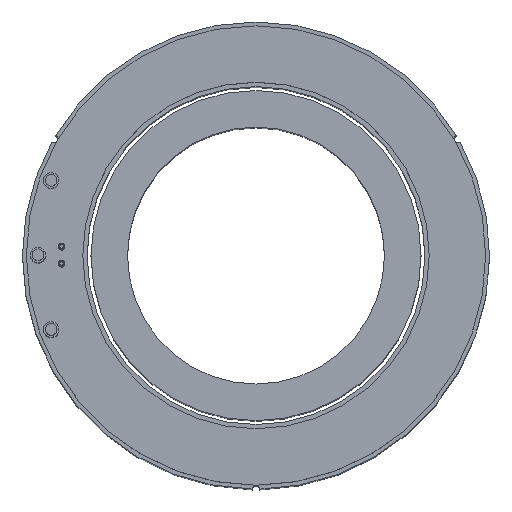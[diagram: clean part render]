
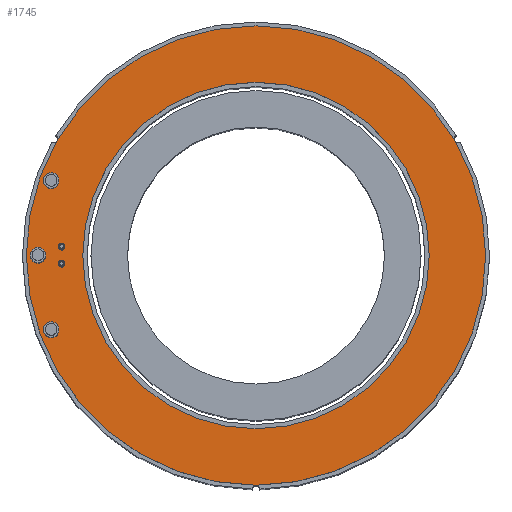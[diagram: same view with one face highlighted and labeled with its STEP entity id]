
A CAD part, top view. The second image highlights one B-rep face of the part: STEP entity #1745.
In plain terms, the highlighted planar face has unit normal (0, 0, 1).
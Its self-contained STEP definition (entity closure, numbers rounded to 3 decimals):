
#15 = DIRECTION ( 'NONE',  ( 1., 0., 0. ) ) ;
#20 = CIRCLE ( 'NONE', #808, 1. ) ;
#22 = DIRECTION ( 'NONE',  ( 1., 0., 0. ) ) ;
#44 = ORIENTED_EDGE ( 'NONE', *, *, #1766, .F. ) ;
#46 = AXIS2_PLACEMENT_3D ( 'NONE', #887, #1321, #22 ) ;
#53 = CIRCLE ( 'NONE', #324, 0.4 ) ;
#65 = DIRECTION ( 'NONE',  ( 0., 0., 1. ) ) ;
#108 = EDGE_CURVE ( 'NONE', #246, #1342, #1605, .T. ) ;
#112 = EDGE_LOOP ( 'NONE', ( #1751, #44 ) ) ;
#145 = DIRECTION ( 'NONE',  ( 1., 0., 0. ) ) ;
#160 = ORIENTED_EDGE ( 'NONE', *, *, #1613, .F. ) ;
#181 = FACE_BOUND ( 'NONE', #1375, .T. ) ;
#186 = VERTEX_POINT ( 'NONE', #395 ) ;
#188 = DIRECTION ( 'NONE',  ( 0., 0., 1. ) ) ;
#189 = DIRECTION ( 'NONE',  ( 0., 0., 1. ) ) ;
#210 = CARTESIAN_POINT ( 'NONE',  ( -24.976, 1.09, 69.7 ) ) ;
#212 = CARTESIAN_POINT ( 'NONE',  ( 0., 0., 69.7 ) ) ;
#216 = VERTEX_POINT ( 'NONE', #1127 ) ;
#231 = CIRCLE ( 'NONE', #1168, 1. ) ;
#246 = VERTEX_POINT ( 'NONE', #1715 ) ;
#286 = ORIENTED_EDGE ( 'NONE', *, *, #1239, .F. ) ;
#303 = EDGE_CURVE ( 'NONE', #1140, #1052, #1635, .T. ) ;
#305 = VERTEX_POINT ( 'NONE', #1316 ) ;
#312 = ORIENTED_EDGE ( 'NONE', *, *, #1645, .F. ) ;
#324 = AXIS2_PLACEMENT_3D ( 'NONE', #210, #188, #1642 ) ;
#325 = AXIS2_PLACEMENT_3D ( 'NONE', #367, #1426, #518 ) ;
#340 = DIRECTION ( 'NONE',  ( 0., 0., 1. ) ) ;
#367 = CARTESIAN_POINT ( 'NONE',  ( -26.311, -9.577, 69.7 ) ) ;
#384 = AXIS2_PLACEMENT_3D ( 'NONE', #1797, #633, #482 ) ;
#388 = EDGE_LOOP ( 'NONE', ( #1334, #658 ) ) ;
#395 = CARTESIAN_POINT ( 'NONE',  ( -25.376, -1.09, 69.7 ) ) ;
#408 = DIRECTION ( 'NONE',  ( 1., 0., 0. ) ) ;
#416 = CARTESIAN_POINT ( 'NONE',  ( -27., 0., 69.7 ) ) ;
#420 = AXIS2_PLACEMENT_3D ( 'NONE', #1611, #899, #15 ) ;
#443 = ORIENTED_EDGE ( 'NONE', *, *, #1863, .F. ) ;
#445 = CIRCLE ( 'NONE', #875, 1. ) ;
#482 = DIRECTION ( 'NONE',  ( 1., 0., 0. ) ) ;
#500 = FACE_BOUND ( 'NONE', #1254, .T. ) ;
#518 = DIRECTION ( 'NONE',  ( 1., 0., 0. ) ) ;
#533 = CIRCLE ( 'NONE', #776, 0.4 ) ;
#543 = CARTESIAN_POINT ( 'NONE',  ( -25.311, 9.577, 69.7 ) ) ;
#545 = DIRECTION ( 'NONE',  ( 0., 0., 1. ) ) ;
#562 = DIRECTION ( 'NONE',  ( 1., 0., 0. ) ) ;
#583 = CARTESIAN_POINT ( 'NONE',  ( -26.311, -9.577, 69.7 ) ) ;
#585 = AXIS2_PLACEMENT_3D ( 'NONE', #1487, #189, #1237 ) ;
#594 = CIRCLE ( 'NONE', #683, 0.4 ) ;
#595 = DIRECTION ( 'NONE',  ( 0., 0., 1. ) ) ;
#605 = FACE_BOUND ( 'NONE', #824, .T. ) ;
#609 = EDGE_CURVE ( 'NONE', #1822, #1589, #20, .T. ) ;
#625 = CARTESIAN_POINT ( 'NONE',  ( 22.25, 0., 69.7 ) ) ;
#633 = DIRECTION ( 'NONE',  ( 0., 0., 1. ) ) ;
#642 = FACE_BOUND ( 'NONE', #112, .T. ) ;
#658 = ORIENTED_EDGE ( 'NONE', *, *, #935, .F. ) ;
#663 = EDGE_LOOP ( 'NONE', ( #1814, #947 ) ) ;
#683 = AXIS2_PLACEMENT_3D ( 'NONE', #1614, #595, #145 ) ;
#694 = CARTESIAN_POINT ( 'NONE',  ( -24.976, -1.09, 69.7 ) ) ;
#699 = EDGE_CURVE ( 'NONE', #186, #1685, #533, .T. ) ;
#721 = CIRCLE ( 'NONE', #325, 1. ) ;
#739 = DIRECTION ( 'NONE',  ( 1., 0., 0. ) ) ;
#740 = CARTESIAN_POINT ( 'NONE',  ( -27.311, 9.577, 69.7 ) ) ;
#745 = VERTEX_POINT ( 'NONE', #1627 ) ;
#752 = AXIS2_PLACEMENT_3D ( 'NONE', #786, #65, #1796 ) ;
#776 = AXIS2_PLACEMENT_3D ( 'NONE', #694, #545, #1192 ) ;
#779 = CARTESIAN_POINT ( 'NONE',  ( 29.5, 0., 69.7 ) ) ;
#786 = CARTESIAN_POINT ( 'NONE',  ( 0., 0., 69.7 ) ) ;
#808 = AXIS2_PLACEMENT_3D ( 'NONE', #859, #1425, #562 ) ;
#824 = EDGE_LOOP ( 'NONE', ( #312, #443 ) ) ;
#833 = CIRCLE ( 'NONE', #1468, 22.25 ) ;
#859 = CARTESIAN_POINT ( 'NONE',  ( -28., 0., 69.7 ) ) ;
#875 = AXIS2_PLACEMENT_3D ( 'NONE', #583, #1606, #739 ) ;
#887 = CARTESIAN_POINT ( 'NONE',  ( 0., 0., 69.7 ) ) ;
#899 = DIRECTION ( 'NONE',  ( 0., 0., 1. ) ) ;
#913 = DIRECTION ( 'NONE',  ( 1., 0., 0. ) ) ;
#921 = CARTESIAN_POINT ( 'NONE',  ( -27.311, -9.577, 69.7 ) ) ;
#935 = EDGE_CURVE ( 'NONE', #1589, #1822, #1078, .T. ) ;
#947 = ORIENTED_EDGE ( 'NONE', *, *, #1340, .T. ) ;
#972 = EDGE_CURVE ( 'NONE', #1120, #216, #1017, .T. ) ;
#986 = AXIS2_PLACEMENT_3D ( 'NONE', #1098, #1793, #1057 ) ;
#1012 = ORIENTED_EDGE ( 'NONE', *, *, #303, .F. ) ;
#1017 = CIRCLE ( 'NONE', #1498, 0.4 ) ;
#1052 = VERTEX_POINT ( 'NONE', #543 ) ;
#1057 = DIRECTION ( 'NONE',  ( 1., 0., 0. ) ) ;
#1078 = CIRCLE ( 'NONE', #986, 1. ) ;
#1082 = PLANE ( 'NONE',  #384 ) ;
#1098 = CARTESIAN_POINT ( 'NONE',  ( -28., 0., 69.7 ) ) ;
#1120 = VERTEX_POINT ( 'NONE', #1154 ) ;
#1127 = CARTESIAN_POINT ( 'NONE',  ( -24.576, 1.09, 69.7 ) ) ;
#1140 = VERTEX_POINT ( 'NONE', #740 ) ;
#1154 = CARTESIAN_POINT ( 'NONE',  ( -25.376, 1.09, 69.7 ) ) ;
#1168 = AXIS2_PLACEMENT_3D ( 'NONE', #1636, #340, #913 ) ;
#1192 = DIRECTION ( 'NONE',  ( 1., 0., 0. ) ) ;
#1194 = ORIENTED_EDGE ( 'NONE', *, *, #1284, .F. ) ;
#1217 = DIRECTION ( 'NONE',  ( 1., 0., 0. ) ) ;
#1224 = FACE_BOUND ( 'NONE', #1602, .T. ) ;
#1237 = DIRECTION ( 'NONE',  ( 1., 0., 0. ) ) ;
#1239 = EDGE_CURVE ( 'NONE', #305, #1394, #1742, .T. ) ;
#1246 = CARTESIAN_POINT ( 'NONE',  ( -29., 0., 69.7 ) ) ;
#1252 = ORIENTED_EDGE ( 'NONE', *, *, #1275, .F. ) ;
#1254 = EDGE_LOOP ( 'NONE', ( #1696, #160 ) ) ;
#1257 = DIRECTION ( 'NONE',  ( 0., 0., 1. ) ) ;
#1275 = EDGE_CURVE ( 'NONE', #1052, #1140, #231, .T. ) ;
#1281 = VERTEX_POINT ( 'NONE', #921 ) ;
#1284 = EDGE_CURVE ( 'NONE', #1394, #305, #833, .T. ) ;
#1316 = CARTESIAN_POINT ( 'NONE',  ( -22.25, 0., 69.7 ) ) ;
#1321 = DIRECTION ( 'NONE',  ( 0., 0., 1. ) ) ;
#1334 = ORIENTED_EDGE ( 'NONE', *, *, #609, .F. ) ;
#1340 = EDGE_CURVE ( 'NONE', #1342, #246, #1558, .T. ) ;
#1342 = VERTEX_POINT ( 'NONE', #779 ) ;
#1375 = EDGE_LOOP ( 'NONE', ( #286, #1194 ) ) ;
#1389 = CARTESIAN_POINT ( 'NONE',  ( -24.976, 1.09, 69.7 ) ) ;
#1394 = VERTEX_POINT ( 'NONE', #625 ) ;
#1425 = DIRECTION ( 'NONE',  ( 0., 0., 1. ) ) ;
#1426 = DIRECTION ( 'NONE',  ( 0., 0., 1. ) ) ;
#1468 = AXIS2_PLACEMENT_3D ( 'NONE', #212, #1773, #1217 ) ;
#1487 = CARTESIAN_POINT ( 'NONE',  ( 0., 0., 69.7 ) ) ;
#1492 = FACE_BOUND ( 'NONE', #388, .T. ) ;
#1498 = AXIS2_PLACEMENT_3D ( 'NONE', #1389, #1257, #408 ) ;
#1558 = CIRCLE ( 'NONE', #585, 29.5 ) ;
#1589 = VERTEX_POINT ( 'NONE', #416 ) ;
#1602 = EDGE_LOOP ( 'NONE', ( #1012, #1252 ) ) ;
#1605 = CIRCLE ( 'NONE', #752, 29.5 ) ;
#1606 = DIRECTION ( 'NONE',  ( 0., 0., 1. ) ) ;
#1611 = CARTESIAN_POINT ( 'NONE',  ( -26.311, 9.577, 69.7 ) ) ;
#1613 = EDGE_CURVE ( 'NONE', #1685, #186, #594, .T. ) ;
#1614 = CARTESIAN_POINT ( 'NONE',  ( -24.976, -1.09, 69.7 ) ) ;
#1627 = CARTESIAN_POINT ( 'NONE',  ( -25.311, -9.577, 69.7 ) ) ;
#1635 = CIRCLE ( 'NONE', #420, 1. ) ;
#1636 = CARTESIAN_POINT ( 'NONE',  ( -26.311, 9.577, 69.7 ) ) ;
#1642 = DIRECTION ( 'NONE',  ( 1., 0., 0. ) ) ;
#1645 = EDGE_CURVE ( 'NONE', #1281, #745, #445, .T. ) ;
#1685 = VERTEX_POINT ( 'NONE', #1735 ) ;
#1696 = ORIENTED_EDGE ( 'NONE', *, *, #699, .F. ) ;
#1715 = CARTESIAN_POINT ( 'NONE',  ( -29.5, 0., 69.7 ) ) ;
#1735 = CARTESIAN_POINT ( 'NONE',  ( -24.576, -1.09, 69.7 ) ) ;
#1742 = CIRCLE ( 'NONE', #46, 22.25 ) ;
#1745 = ADVANCED_FACE ( 'NONE', ( #500, #642, #605, #1492, #1224, #1771, #181 ), #1082, .T. ) ;
#1751 = ORIENTED_EDGE ( 'NONE', *, *, #972, .F. ) ;
#1766 = EDGE_CURVE ( 'NONE', #216, #1120, #53, .T. ) ;
#1771 = FACE_OUTER_BOUND ( 'NONE', #663, .T. ) ;
#1773 = DIRECTION ( 'NONE',  ( 0., 0., 1. ) ) ;
#1793 = DIRECTION ( 'NONE',  ( 0., 0., 1. ) ) ;
#1796 = DIRECTION ( 'NONE',  ( 1., 0., 0. ) ) ;
#1797 = CARTESIAN_POINT ( 'NONE',  ( 0., 0., 69.7 ) ) ;
#1814 = ORIENTED_EDGE ( 'NONE', *, *, #108, .T. ) ;
#1822 = VERTEX_POINT ( 'NONE', #1246 ) ;
#1863 = EDGE_CURVE ( 'NONE', #745, #1281, #721, .T. ) ;
